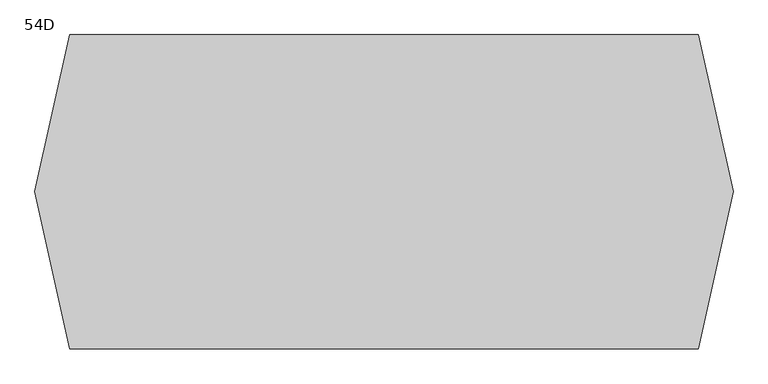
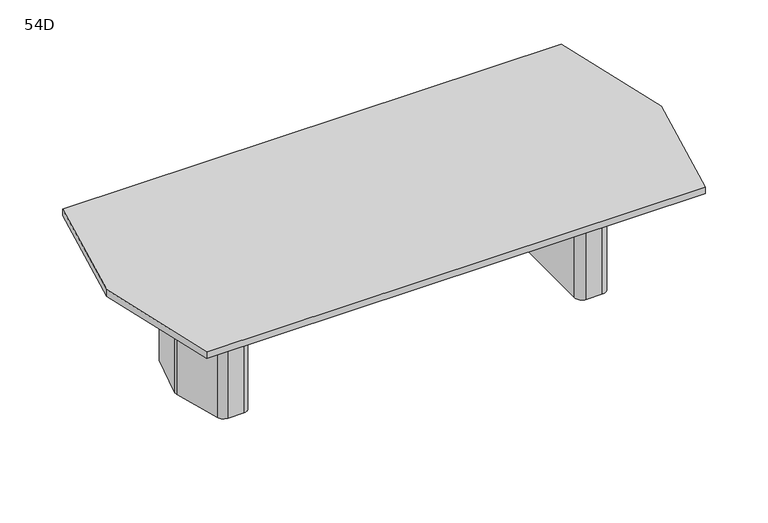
"""IFC4 building model written with IfcOpenShell, lengths in millimetres: furniture geometry, Coalesse_AM_Table_Conference_ETable2_Faceted_10ft_TwoBase : 54D."""

from ifc_helpers import new_model, si_unit, frame, origin, place, context, project, spatial, polyline, circle_curve, outline, extrude, source, transform, mapped, element, save
from ifc_brep_helpers import plane_surface, cylinder_surface, revolved_surface, advanced_brep


def furniture_54d_4db446cb(model_context):
    return source(origin(), model_context, "Body", "SolidModel", [
        advanced_brep(
        [(1065.424548, 274.2093613, 698.5), (1025.5579246, 304.8, 698.5), (936.625, 304.8, 698.5), (895.35, 263.525, 698.5), (895.35, -263.525, 698.5), (936.625, -304.8, 698.5), (1025.5579246, -304.8, 698.5), (1065.424548, -274.2093613, 698.5), (1136.0503901, -10.6333708, 698.5), (1136.0503901, 10.6333708, 698.5), (933.45, -206.375, 698.5), (933.45, 206.375, 698.5), (958.85, 231.775, 698.5), (1017.8608422, 231.775, 698.5), (1042.395338, 212.9490792, 698.5), (1081.0875, 68.54974, 698.5), (1081.0875, -68.54974, 698.5), (1042.395338, -212.9490792, 698.5), (1017.8608422, -231.775, 698.5), (958.85, -231.775, 698.5), (1065.424548, 274.2093613, 3.175), (1136.0503901, 10.6333708, 3.175), (1136.0503901, -10.6333708, 3.175), (1065.424548, -274.2093613, 3.175), (1025.5579246, -304.8, 3.175), (936.625, -304.8, 3.175), (895.35, -263.525, 3.175), (895.35, 263.525, 3.175), (936.625, 304.8, 3.175), (1025.5579246, 304.8, 3.175), (1054.6625859, 216.2361187, 3.175), (1017.8608422, 244.475, 3.175), (958.85, 244.475, 3.175), (920.75, 206.375, 3.175), (920.75, -206.375, 3.175), (958.85, -244.475, 3.175), (1017.8608422, -244.475, 3.175), (1054.6625859, -216.2361187, 3.175), (1093.7875, -70.2217466, 3.175), (1093.7875, 70.2217466, 3.175), (958.85, -231.775, 3.175), (933.45, -206.375, 3.175), (1017.8608422, -231.775, 3.175), (1042.395338, -212.9490792, 3.175), (1081.0875, -68.54974, 3.175), (1081.0875, 68.54974, 3.175), (1042.395338, 212.9490792, 3.175), (1017.8608422, 231.775, 3.175), (958.85, 231.775, 3.175), (933.45, 206.375, 3.175), (1054.6625859, 216.2361187, 0.0), (1093.7875, 70.2217466, 0.0), (1093.7875, -70.2217466, 0.0), (1054.6625859, -216.2361187, 0.0), (1017.8608422, -244.475, 0.0), (958.85, -244.475, 0.0), (920.75, -206.375, 0.0), (920.75, 206.375, 0.0), (958.85, 244.475, 0.0), (1017.8608422, 244.475, 0.0)],
        [
            (0, 1, circle_curve(frame((1025.5579246, 263.5270004, 698.5), z_axis=(0.0, 0.0, 1.0), x_axis=(-1.0, 0.0, 0.0)), 41.2729996)),
            (1, 2),
            (2, 3, circle_curve(frame((936.625, 263.525, 698.5), z_axis=(0.0, 0.0, 1.0), x_axis=(-1.0, 0.0, 0.0)), 41.275)),
            (3, 4),
            (4, 5, circle_curve(frame((936.625, -263.525, 698.5), z_axis=(0.0, 0.0, 1.0), x_axis=(-1.0, 0.0, 0.0)), 41.275)),
            (5, 6),
            (6, 7, circle_curve(frame((1025.5579246, -263.5270004, 698.5), z_axis=(0.0, 0.0, 1.0), x_axis=(-1.0, 0.0, 0.0)), 41.2729996)),
            (7, 8),
            (8, 9, circle_curve(frame((1096.3665979, 0.0, 698.5), z_axis=(0.0, 0.0, 1.0), x_axis=(-1.0, 0.0, 0.0)), 41.0837187)),
            (9, 0),
            (10, 11),
            (11, 12, circle_curve(frame((958.85, 206.375, 698.5), z_axis=(0.0, 0.0, -1.0), x_axis=(-1.0, 0.0, 0.0)), 25.4)),
            (12, 13),
            (13, 14, circle_curve(frame((1017.8608422, 206.375, 698.5), z_axis=(0.0, 0.0, -1.0), x_axis=(-1.0, 0.0, 0.0)), 25.4)),
            (14, 15),
            (15, 16),
            (16, 17),
            (17, 18, circle_curve(frame((1017.8608422, -206.375, 698.5), z_axis=(0.0, 0.0, -1.0), x_axis=(-1.0, 0.0, 0.0)), 25.4)),
            (18, 19),
            (19, 10, circle_curve(frame((958.85, -206.375, 698.5), z_axis=(0.0, 0.0, -1.0), x_axis=(-1.0, 0.0, 0.0)), 25.4)),
            (20, 21),
            (21, 22, circle_curve(frame((1096.3665979, 0.0, 3.175), z_axis=(0.0, 0.0, -1.0), x_axis=(-1.0, 0.0, 0.0)), 41.0837187)),
            (22, 23),
            (23, 24, circle_curve(frame((1025.5579246, -263.5270004, 3.175), z_axis=(0.0, 0.0, -1.0), x_axis=(-1.0, 0.0, 0.0)), 41.2729996)),
            (24, 25),
            (25, 26, circle_curve(frame((936.625, -263.525, 3.175), z_axis=(0.0, 0.0, -1.0), x_axis=(-1.0, 0.0, 0.0)), 41.275)),
            (26, 27),
            (27, 28, circle_curve(frame((936.625, 263.525, 3.175), z_axis=(0.0, 0.0, -1.0), x_axis=(-1.0, 0.0, 0.0)), 41.275)),
            (28, 29),
            (29, 20, circle_curve(frame((1025.5579246, 263.5270004, 3.175), z_axis=(0.0, 0.0, -1.0), x_axis=(-1.0, 0.0, 0.0)), 41.2729996)),
            (30, 31, circle_curve(frame((1017.8608422, 206.375, 3.175), z_axis=(0.0, 0.0, 1.0), x_axis=(-1.0, 0.0, 0.0)), 38.1)),
            (31, 32),
            (32, 33, circle_curve(frame((958.85, 206.375, 3.175), z_axis=(0.0, 0.0, 1.0), x_axis=(-1.0, 0.0, 0.0)), 38.1)),
            (33, 34),
            (34, 35, circle_curve(frame((958.85, -206.375, 3.175), z_axis=(0.0, 0.0, 1.0), x_axis=(-1.0, 0.0, 0.0)), 38.1)),
            (35, 36),
            (36, 37, circle_curve(frame((1017.8608422, -206.375, 3.175), z_axis=(0.0, 0.0, 1.0), x_axis=(-1.0, 0.0, 0.0)), 38.1)),
            (37, 38),
            (38, 39),
            (39, 30),
            (9, 21),
            (20, 0),
            (8, 22),
            (7, 23),
            (6, 24),
            (5, 25),
            (4, 26),
            (3, 27),
            (2, 28),
            (1, 29),
            (19, 40),
            (40, 41, circle_curve(frame((958.85, -206.375, 3.175), z_axis=(0.0, 0.0, -1.0), x_axis=(-1.0, 0.0, 0.0)), 25.4)),
            (41, 10),
            (18, 42),
            (42, 40),
            (17, 43),
            (43, 42, circle_curve(frame((1017.8608422, -206.375, 3.175), z_axis=(0.0, 0.0, -1.0), x_axis=(-1.0, 0.0, 0.0)), 25.4)),
            (16, 44),
            (44, 43),
            (15, 45),
            (45, 44),
            (14, 46),
            (46, 45),
            (13, 47),
            (47, 46, circle_curve(frame((1017.8608422, 206.375, 3.175), z_axis=(0.0, 0.0, -1.0), x_axis=(-1.0, 0.0, 0.0)), 25.4)),
            (12, 48),
            (48, 47),
            (11, 49),
            (49, 48, circle_curve(frame((958.85, 206.375, 3.175), z_axis=(0.0, 0.0, -1.0), x_axis=(-1.0, 0.0, 0.0)), 25.4)),
            (41, 49),
            (50, 51),
            (51, 52),
            (52, 53),
            (53, 54, circle_curve(frame((1017.8608422, -206.375, 0.0), z_axis=(0.0, 0.0, -1.0), x_axis=(-1.0, 0.0, 0.0)), 38.1)),
            (54, 55),
            (55, 56, circle_curve(frame((958.85, -206.375, 0.0), z_axis=(0.0, 0.0, -1.0), x_axis=(-1.0, 0.0, 0.0)), 38.1)),
            (56, 57),
            (57, 58, circle_curve(frame((958.85, 206.375, 0.0), z_axis=(0.0, 0.0, -1.0), x_axis=(-1.0, 0.0, 0.0)), 38.1)),
            (58, 59),
            (59, 50, circle_curve(frame((1017.8608422, 206.375, 0.0), z_axis=(0.0, 0.0, -1.0), x_axis=(-1.0, 0.0, 0.0)), 38.1)),
            (50, 30),
            (39, 51),
            (38, 52),
            (37, 53),
            (36, 54),
            (35, 55),
            (34, 56),
            (33, 57),
            (32, 58),
            (31, 59),
        ],
        [
            plane_surface(frame((1136.0374275, 10.6817473, 698.5), z_axis=(0.0, 0.0, 1.0000000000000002), x_axis=(0.25882201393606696, -0.9659250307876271, 0.0))),
            plane_surface(frame((1136.0374275, 10.6817473, 3.175), z_axis=(0.0, 0.0, -1.0000000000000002), x_axis=(-0.25882201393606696, 0.9659250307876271, 0.0))),
            plane_surface(frame((1065.424548, 274.2093613, 698.5), z_axis=(0.9659250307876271, 0.25882201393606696, 0.0), x_axis=(0.0, 0.0, -1.0))),
            cylinder_surface(frame((1096.3665979, 0.0, 3.175), z_axis=(0.0, 0.0, 1.0), x_axis=(-1.0, 0.0, 0.0)), 41.0837187),
            plane_surface(frame((1136.0503901, -10.6333708, 698.5), z_axis=(0.9659250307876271, -0.2588220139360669, 0.0), x_axis=(0.0, 0.0, -1.0))),
            cylinder_surface(frame((1025.5579246, -263.5270004, 3.175), z_axis=(0.0, 0.0, 1.0), x_axis=(-1.0, 0.0, 0.0)), 41.2729996),
            plane_surface(frame((1025.5579246, -304.8, 698.5), z_axis=(0.0, -1.0, 0.0), x_axis=(0.0, 0.0, -1.0))),
            cylinder_surface(frame((936.625, -263.525, 3.175), z_axis=(0.0, 0.0, 1.0), x_axis=(-1.0, 0.0, 0.0)), 41.275),
            plane_surface(frame((895.35, -263.525, 698.5), z_axis=(-1.0, 0.0, 0.0), x_axis=(0.0, 0.0, -1.0))),
            cylinder_surface(frame((936.625, 263.525, 3.175), z_axis=(0.0, 0.0, 1.0), x_axis=(-1.0, 0.0, 0.0)), 41.275),
            plane_surface(frame((936.625, 304.8, 698.5), z_axis=(0.0, 1.0, 0.0), x_axis=(0.0, 0.0, -1.0))),
            cylinder_surface(frame((1025.5579246, 263.5270004, 3.175), z_axis=(0.0, 0.0, 1.0), x_axis=(-1.0, 0.0, 0.0)), 41.2729996),
            revolved_surface(polyline([(933.45, -206.375, 3.175), (933.45, -206.375, 698.5)]), (958.85, -206.375, 0.0), (0.0, 0.0, -1.0)),
            plane_surface(frame((958.85, -231.775, 698.5), z_axis=(0.0, 1.0, 0.0), x_axis=(0.0, 0.0, -1.0))),
            revolved_surface(polyline([(992.4608422, -206.375, 3.175), (992.4608422, -206.375, 698.5)]), (1017.8608422, -206.375, 0.0), (0.0, 0.0, -1.0)),
            plane_surface(frame((1042.395338, -212.9490792, 698.5), z_axis=(-0.9659250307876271, 0.2588220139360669, 0.0), x_axis=(0.0, 0.0, -1.0))),
            plane_surface(frame((1081.0875, -68.54974, 698.5), z_axis=(-1.0, 0.0, 0.0), x_axis=(0.0, 0.0, -1.0))),
            plane_surface(frame((1081.0875, 68.54974, 698.5), z_axis=(-0.9659250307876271, -0.25882201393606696, 0.0), x_axis=(0.0, 0.0, -1.0))),
            revolved_surface(polyline([(992.4608422, 206.375, 3.175), (992.4608422, 206.375, 698.5)]), (1017.8608422, 206.375, 0.0), (0.0, 0.0, -1.0)),
            plane_surface(frame((1017.8608422, 231.775, 698.5), z_axis=(0.0, -1.0, 0.0), x_axis=(0.0, 0.0, -1.0))),
            revolved_surface(polyline([(933.45, 206.375, 3.175), (933.45, 206.375, 698.5)]), (958.85, 206.375, 0.0), (0.0, 0.0, -1.0)),
            plane_surface(frame((933.45, 206.375, 698.5), z_axis=(1.0, 0.0, 0.0), x_axis=(0.0, 0.0, -1.0))),
            plane_surface(frame((1093.3547479, 71.8367796, 3.175), z_axis=(0.0, 0.0, 1.0), x_axis=(0.25882201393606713, -0.965925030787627, 0.0))),
            plane_surface(frame((1093.3547479, 71.8367796, 0.0), z_axis=(0.0, 0.0, -1.0), x_axis=(-0.25882201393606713, 0.965925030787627, 0.0))),
            plane_surface(frame((1054.6625859, 216.2361187, 3.175), z_axis=(0.965925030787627, 0.25882201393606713, 0.0), x_axis=(0.0, 0.0, -1.0))),
            plane_surface(frame((1093.7875, 70.2217466, 3.175), z_axis=(1.0, 0.0, 0.0), x_axis=(0.0, 0.0, -1.0))),
            plane_surface(frame((1093.7875, -70.2217466, 3.175), z_axis=(0.9659250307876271, -0.2588220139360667, 0.0), x_axis=(0.0, 0.0, -1.0))),
            cylinder_surface(frame((1017.8608422, -206.375, 0.0), z_axis=(0.0, 0.0, 1.0), x_axis=(-1.0, 0.0, 0.0)), 38.1),
            plane_surface(frame((1017.8608422, -244.475, 3.175), z_axis=(0.0, -1.0, 0.0), x_axis=(0.0, 0.0, -1.0))),
            cylinder_surface(frame((958.85, -206.375, 0.0), z_axis=(0.0, 0.0, 1.0), x_axis=(-1.0, 0.0, 0.0)), 38.1),
            plane_surface(frame((920.75, -206.375, 3.175), z_axis=(-1.0, 0.0, 0.0), x_axis=(0.0, 0.0, -1.0))),
            cylinder_surface(frame((958.85, 206.375, 0.0), z_axis=(0.0, 0.0, 1.0), x_axis=(-1.0, 0.0, 0.0)), 38.1),
            plane_surface(frame((958.85, 244.475, 3.175), z_axis=(0.0, 1.0, 0.0), x_axis=(0.0, 0.0, -1.0))),
            cylinder_surface(frame((1017.8608422, 206.375, 0.0), z_axis=(0.0, 0.0, 1.0), x_axis=(-1.0, 0.0, 0.0)), 38.1),
        ],
        [
            (0, [[1, 2, 3, 4, 5, 6, 7, 8, 9, 10], [11, 12, 13, 14, 15, 16, 17, 18, 19, 20]]),
            (1, [[21, 22, 23, 24, 25, 26, 27, 28, 29, 30], [31, 32, 33, 34, 35, 36, 37, 38, 39, 40]]),
            (2, [[41, -21, 42, -10]]),
            (3, [[43, -22, -41, -9]]),
            (4, [[44, -23, -43, -8]]),
            (5, [[45, -24, -44, -7]]),
            (6, [[46, -25, -45, -6]]),
            (7, [[47, -26, -46, -5]]),
            (8, [[48, -27, -47, -4]]),
            (9, [[49, -28, -48, -3]]),
            (10, [[50, -29, -49, -2]]),
            (11, [[-42, -30, -50, -1]]),
            (12, [[51, 52, 53, -20]]),
            (13, [[54, 55, -51, -19]]),
            (14, [[56, 57, -54, -18]]),
            (15, [[58, 59, -56, -17]]),
            (16, [[60, 61, -58, -16]]),
            (17, [[62, 63, -60, -15]]),
            (18, [[64, 65, -62, -14]]),
            (19, [[66, 67, -64, -13]]),
            (20, [[68, 69, -66, -12]]),
            (21, [[-53, 70, -68, -11]]),
            (22, [[-55, -57, -59, -61, -63, -65, -67, -69, -70, -52]]),
            (23, [[71, 72, 73, 74, 75, 76, 77, 78, 79, 80]]),
            (24, [[81, -40, 82, -71]]),
            (25, [[-82, -39, 83, -72]]),
            (26, [[-83, -38, 84, -73]]),
            (27, [[-84, -37, 85, -74]]),
            (28, [[-85, -36, 86, -75]]),
            (29, [[-86, -35, 87, -76]]),
            (30, [[-87, -34, 88, -77]]),
            (31, [[-88, -33, 89, -78]]),
            (32, [[-89, -32, 90, -79]]),
            (33, [[-90, -31, -81, -80]]),
        ],
    ),
        advanced_brep(
        [(-1076.537048, 274.2093613, 698.5), (-1147.1628901, 10.6333708, 698.5), (-1147.1628901, -10.6333708, 698.5), (-1076.537048, -274.2093613, 698.5), (-1036.6704246, -304.8, 698.5), (-947.7375, -304.8, 698.5), (-906.4625, -263.525, 698.5), (-906.4625, 263.525, 698.5), (-947.7375, 304.8, 698.5), (-1036.6704246, 304.8, 698.5), (-944.5625, -206.375, 698.5), (-969.9625, -231.775, 698.5), (-1028.9733422, -231.775, 698.5), (-1053.507838, -212.9490792, 698.5), (-1092.2, -68.54974, 698.5), (-1092.2, 68.54974, 698.5), (-1053.507838, 212.9490792, 698.5), (-1028.9733422, 231.775, 698.5), (-969.9625, 231.775, 698.5), (-944.5625, 206.375, 698.5), (-1076.537048, 274.2093613, 3.175), (-1036.6704246, 304.8, 3.175), (-947.7375, 304.8, 3.175), (-906.4625, 263.525, 3.175), (-906.4625, -263.525, 3.175), (-947.7375, -304.8, 3.175), (-1036.6704246, -304.8, 3.175), (-1076.537048, -274.2093613, 3.175), (-1147.1628901, -10.6333708, 3.175), (-1147.1628901, 10.6333708, 3.175), (-1065.7750859, 216.2361187, 3.175), (-1104.9, 70.2217466, 3.175), (-1104.9, -70.2217466, 3.175), (-1065.7750859, -216.2361187, 3.175), (-1028.9733422, -244.475, 3.175), (-969.9625, -244.475, 3.175), (-931.8625, -206.375, 3.175), (-931.8625, 206.375, 3.175), (-969.9625, 244.475, 3.175), (-1028.9733422, 244.475, 3.175), (-944.5625, -206.375, 3.175), (-969.9625, -231.775, 3.175), (-1028.9733422, -231.775, 3.175), (-1053.507838, -212.9490792, 3.175), (-1092.2, -68.54974, 3.175), (-1092.2, 68.54974, 3.175), (-1053.507838, 212.9490792, 3.175), (-1028.9733422, 231.775, 3.175), (-969.9625, 231.775, 3.175), (-944.5625, 206.375, 3.175), (-1065.7750859, 216.2361187, 0.0), (-1028.9733422, 244.475, 0.0), (-969.9625, 244.475, 0.0), (-931.8625, 206.375, 0.0), (-931.8625, -206.375, 0.0), (-969.9625, -244.475, 0.0), (-1028.9733422, -244.475, 0.0), (-1065.7750859, -216.2361187, 0.0), (-1104.9, -70.2217466, 0.0), (-1104.9, 70.2217466, 0.0)],
        [
            (0, 1),
            (1, 2, circle_curve(frame((-1107.4790979, 0.0, 698.5), z_axis=(0.0, 0.0, 1.0), x_axis=(1.0, 0.0, 0.0)), 41.0837187)),
            (2, 3),
            (3, 4, circle_curve(frame((-1036.6704246, -263.5270004, 698.5), z_axis=(0.0, 0.0, 1.0), x_axis=(1.0, 0.0, 0.0)), 41.2729996)),
            (4, 5),
            (5, 6, circle_curve(frame((-947.7375, -263.525, 698.5), z_axis=(0.0, 0.0, 1.0), x_axis=(1.0, 0.0, 0.0)), 41.275)),
            (6, 7),
            (7, 8, circle_curve(frame((-947.7375, 263.525, 698.5), z_axis=(0.0, 0.0, 1.0), x_axis=(1.0, 0.0, 0.0)), 41.275)),
            (8, 9),
            (9, 0, circle_curve(frame((-1036.6704246, 263.5270004, 698.5), z_axis=(0.0, 0.0, 1.0), x_axis=(1.0, 0.0, 0.0)), 41.2729996)),
            (10, 11, circle_curve(frame((-969.9625, -206.375, 698.5), z_axis=(0.0, 0.0, -1.0), x_axis=(1.0, 0.0, 0.0)), 25.4)),
            (11, 12),
            (12, 13, circle_curve(frame((-1028.9733422, -206.375, 698.5), z_axis=(0.0, 0.0, -1.0), x_axis=(1.0, 0.0, 0.0)), 25.4)),
            (13, 14),
            (14, 15),
            (15, 16),
            (16, 17, circle_curve(frame((-1028.9733422, 206.375, 698.5), z_axis=(0.0, 0.0, -1.0), x_axis=(1.0, 0.0, 0.0)), 25.4)),
            (17, 18),
            (18, 19, circle_curve(frame((-969.9625, 206.375, 698.5), z_axis=(0.0, 0.0, -1.0), x_axis=(1.0, 0.0, 0.0)), 25.4)),
            (19, 10),
            (20, 21, circle_curve(frame((-1036.6704246, 263.5270004, 3.175), z_axis=(0.0, 0.0, -1.0), x_axis=(1.0, 0.0, 0.0)), 41.2729996)),
            (21, 22),
            (22, 23, circle_curve(frame((-947.7375, 263.525, 3.175), z_axis=(0.0, 0.0, -1.0), x_axis=(1.0, 0.0, 0.0)), 41.275)),
            (23, 24),
            (24, 25, circle_curve(frame((-947.7375, -263.525, 3.175), z_axis=(0.0, 0.0, -1.0), x_axis=(1.0, 0.0, 0.0)), 41.275)),
            (25, 26),
            (26, 27, circle_curve(frame((-1036.6704246, -263.5270004, 3.175), z_axis=(0.0, 0.0, -1.0), x_axis=(1.0, 0.0, 0.0)), 41.2729996)),
            (27, 28),
            (28, 29, circle_curve(frame((-1107.4790979, 0.0, 3.175), z_axis=(0.0, 0.0, -1.0), x_axis=(1.0, 0.0, 0.0)), 41.0837187)),
            (29, 20),
            (30, 31),
            (31, 32),
            (32, 33),
            (33, 34, circle_curve(frame((-1028.9733422, -206.375, 3.175), z_axis=(0.0, 0.0, 1.0), x_axis=(1.0, 0.0, 0.0)), 38.1)),
            (34, 35),
            (35, 36, circle_curve(frame((-969.9625, -206.375, 3.175), z_axis=(0.0, 0.0, 1.0), x_axis=(1.0, 0.0, 0.0)), 38.1)),
            (36, 37),
            (37, 38, circle_curve(frame((-969.9625, 206.375, 3.175), z_axis=(0.0, 0.0, 1.0), x_axis=(1.0, 0.0, 0.0)), 38.1)),
            (38, 39),
            (39, 30, circle_curve(frame((-1028.9733422, 206.375, 3.175), z_axis=(0.0, 0.0, 1.0), x_axis=(1.0, 0.0, 0.0)), 38.1)),
            (0, 20),
            (29, 1),
            (28, 2),
            (27, 3),
            (26, 4),
            (25, 5),
            (24, 6),
            (23, 7),
            (22, 8),
            (21, 9),
            (10, 40),
            (40, 41, circle_curve(frame((-969.9625, -206.375, 3.175), z_axis=(0.0, 0.0, -1.0), x_axis=(1.0, 0.0, 0.0)), 25.4)),
            (41, 11),
            (41, 42),
            (42, 12),
            (42, 43, circle_curve(frame((-1028.9733422, -206.375, 3.175), z_axis=(0.0, 0.0, -1.0), x_axis=(1.0, 0.0, 0.0)), 25.4)),
            (43, 13),
            (43, 44),
            (44, 14),
            (44, 45),
            (45, 15),
            (45, 46),
            (46, 16),
            (46, 47, circle_curve(frame((-1028.9733422, 206.375, 3.175), z_axis=(0.0, 0.0, -1.0), x_axis=(1.0, 0.0, 0.0)), 25.4)),
            (47, 17),
            (47, 48),
            (48, 18),
            (48, 49, circle_curve(frame((-969.9625, 206.375, 3.175), z_axis=(0.0, 0.0, -1.0), x_axis=(1.0, 0.0, 0.0)), 25.4)),
            (49, 19),
            (49, 40),
            (50, 51, circle_curve(frame((-1028.9733422, 206.375, 0.0), z_axis=(0.0, 0.0, -1.0), x_axis=(1.0, 0.0, 0.0)), 38.1)),
            (51, 52),
            (52, 53, circle_curve(frame((-969.9625, 206.375, 0.0), z_axis=(0.0, 0.0, -1.0), x_axis=(1.0, 0.0, 0.0)), 38.1)),
            (53, 54),
            (54, 55, circle_curve(frame((-969.9625, -206.375, 0.0), z_axis=(0.0, 0.0, -1.0), x_axis=(1.0, 0.0, 0.0)), 38.1)),
            (55, 56),
            (56, 57, circle_curve(frame((-1028.9733422, -206.375, 0.0), z_axis=(0.0, 0.0, -1.0), x_axis=(1.0, 0.0, 0.0)), 38.1)),
            (57, 58),
            (58, 59),
            (59, 50),
            (59, 31),
            (30, 50),
            (58, 32),
            (57, 33),
            (56, 34),
            (55, 35),
            (54, 36),
            (53, 37),
            (52, 38),
            (51, 39),
        ],
        [
            plane_surface(frame((-1147.1499275, 10.6817473, 698.5), z_axis=(0.0, 0.0, 1.0000000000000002), x_axis=(-0.25882201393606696, -0.9659250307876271, 0.0))),
            plane_surface(frame((-1147.1499275, 10.6817473, 3.175), z_axis=(0.0, 0.0, -1.0000000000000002), x_axis=(0.25882201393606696, 0.9659250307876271, 0.0))),
            plane_surface(frame((-1076.537048, 274.2093613, 698.5), z_axis=(-0.9659250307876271, 0.25882201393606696, 0.0), x_axis=(0.0, 0.0, -1.0))),
            cylinder_surface(frame((-1107.4790979, 0.0, 3.175), z_axis=(0.0, 0.0, 1.0), x_axis=(1.0, 0.0, 0.0)), 41.0837187),
            plane_surface(frame((-1147.1628901, -10.6333708, 698.5), z_axis=(-0.9659250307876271, -0.2588220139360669, 0.0), x_axis=(0.0, 0.0, -1.0))),
            cylinder_surface(frame((-1036.6704246, -263.5270004, 3.175), z_axis=(0.0, 0.0, 1.0), x_axis=(1.0, 0.0, 0.0)), 41.2729996),
            plane_surface(frame((-1036.6704246, -304.8, 698.5), z_axis=(0.0, -1.0, 0.0), x_axis=(0.0, 0.0, -1.0))),
            cylinder_surface(frame((-947.7375, -263.525, 3.175), z_axis=(0.0, 0.0, 1.0), x_axis=(1.0, 0.0, 0.0)), 41.275),
            plane_surface(frame((-906.4625, -263.525, 698.5), z_axis=(1.0, 0.0, 0.0), x_axis=(0.0, 0.0, -1.0))),
            cylinder_surface(frame((-947.7375, 263.525, 3.175), z_axis=(0.0, 0.0, 1.0), x_axis=(1.0, 0.0, 0.0)), 41.275),
            plane_surface(frame((-947.7375, 304.8, 698.5), z_axis=(0.0, 1.0, 0.0), x_axis=(0.0, 0.0, -1.0))),
            cylinder_surface(frame((-1036.6704246, 263.5270004, 3.175), z_axis=(0.0, 0.0, 1.0), x_axis=(1.0, 0.0, 0.0)), 41.2729996),
            revolved_surface(polyline([(-944.5625, -206.375, 3.175), (-944.5625, -206.375, 698.5)]), (-969.9625, -206.375, 0.0), (0.0, 0.0, -1.0)),
            plane_surface(frame((-969.9625, -231.775, 698.5), z_axis=(0.0, 1.0, 0.0), x_axis=(0.0, 0.0, -1.0))),
            revolved_surface(polyline([(-1003.5733422, -206.375, 3.175), (-1003.5733422, -206.375, 698.5)]), (-1028.9733422, -206.375, 0.0), (0.0, 0.0, -1.0)),
            plane_surface(frame((-1053.507838, -212.9490792, 698.5), z_axis=(0.9659250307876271, 0.2588220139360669, 0.0), x_axis=(0.0, 0.0, -1.0))),
            plane_surface(frame((-1092.2, -68.54974, 698.5), z_axis=(1.0, 0.0, 0.0), x_axis=(0.0, 0.0, -1.0))),
            plane_surface(frame((-1092.2, 68.54974, 698.5), z_axis=(0.9659250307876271, -0.25882201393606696, 0.0), x_axis=(0.0, 0.0, -1.0))),
            revolved_surface(polyline([(-1003.5733422, 206.375, 3.175), (-1003.5733422, 206.375, 698.5)]), (-1028.9733422, 206.375, 0.0), (0.0, 0.0, -1.0)),
            plane_surface(frame((-1028.9733422, 231.775, 698.5), z_axis=(0.0, -1.0, 0.0), x_axis=(0.0, 0.0, -1.0))),
            revolved_surface(polyline([(-944.5625, 206.375, 3.175), (-944.5625, 206.375, 698.5)]), (-969.9625, 206.375, 0.0), (0.0, 0.0, -1.0)),
            plane_surface(frame((-944.5625, 206.375, 698.5), z_axis=(-1.0, 0.0, 0.0), x_axis=(0.0, 0.0, -1.0))),
            plane_surface(frame((-1104.4672479, 71.8367796, 3.175), z_axis=(0.0, 0.0, 1.0), x_axis=(-0.25882201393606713, -0.965925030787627, 0.0))),
            plane_surface(frame((-1104.4672479, 71.8367796, 0.0), z_axis=(0.0, 0.0, -1.0), x_axis=(0.25882201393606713, 0.965925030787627, 0.0))),
            plane_surface(frame((-1065.7750859, 216.2361187, 3.175), z_axis=(-0.965925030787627, 0.25882201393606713, 0.0), x_axis=(0.0, 0.0, -1.0))),
            plane_surface(frame((-1104.9, 70.2217466, 3.175), z_axis=(-1.0, 0.0, 0.0), x_axis=(0.0, 0.0, -1.0))),
            plane_surface(frame((-1104.9, -70.2217466, 3.175), z_axis=(-0.9659250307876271, -0.2588220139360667, 0.0), x_axis=(0.0, 0.0, -1.0))),
            cylinder_surface(frame((-1028.9733422, -206.375, 0.0), z_axis=(0.0, 0.0, 1.0), x_axis=(1.0, 0.0, 0.0)), 38.1),
            plane_surface(frame((-1028.9733422, -244.475, 3.175), z_axis=(0.0, -1.0, 0.0), x_axis=(0.0, 0.0, -1.0))),
            cylinder_surface(frame((-969.9625, -206.375, 0.0), z_axis=(0.0, 0.0, 1.0), x_axis=(1.0, 0.0, 0.0)), 38.1),
            plane_surface(frame((-931.8625, -206.375, 3.175), z_axis=(1.0, 0.0, 0.0), x_axis=(0.0, 0.0, -1.0))),
            cylinder_surface(frame((-969.9625, 206.375, 0.0), z_axis=(0.0, 0.0, 1.0), x_axis=(1.0, 0.0, 0.0)), 38.1),
            plane_surface(frame((-969.9625, 244.475, 3.175), z_axis=(0.0, 1.0, 0.0), x_axis=(0.0, 0.0, -1.0))),
            cylinder_surface(frame((-1028.9733422, 206.375, 0.0), z_axis=(0.0, 0.0, 1.0), x_axis=(1.0, 0.0, 0.0)), 38.1),
        ],
        [
            (0, [[1, 2, 3, 4, 5, 6, 7, 8, 9, 10], [11, 12, 13, 14, 15, 16, 17, 18, 19, 20]]),
            (1, [[21, 22, 23, 24, 25, 26, 27, 28, 29, 30], [31, 32, 33, 34, 35, 36, 37, 38, 39, 40]]),
            (2, [[-1, 41, -30, 42]]),
            (3, [[-2, -42, -29, 43]]),
            (4, [[-3, -43, -28, 44]]),
            (5, [[-4, -44, -27, 45]]),
            (6, [[-5, -45, -26, 46]]),
            (7, [[-6, -46, -25, 47]]),
            (8, [[-7, -47, -24, 48]]),
            (9, [[-8, -48, -23, 49]]),
            (10, [[-9, -49, -22, 50]]),
            (11, [[-10, -50, -21, -41]]),
            (12, [[-11, 51, 52, 53]]),
            (13, [[-12, -53, 54, 55]]),
            (14, [[-13, -55, 56, 57]]),
            (15, [[-14, -57, 58, 59]]),
            (16, [[-15, -59, 60, 61]]),
            (17, [[-16, -61, 62, 63]]),
            (18, [[-17, -63, 64, 65]]),
            (19, [[-18, -65, 66, 67]]),
            (20, [[-19, -67, 68, 69]]),
            (21, [[-20, -69, 70, -51]]),
            (22, [[-52, -70, -68, -66, -64, -62, -60, -58, -56, -54]]),
            (23, [[71, 72, 73, 74, 75, 76, 77, 78, 79, 80]]),
            (24, [[-80, 81, -31, 82]]),
            (25, [[-79, 83, -32, -81]]),
            (26, [[-78, 84, -33, -83]]),
            (27, [[-77, 85, -34, -84]]),
            (28, [[-76, 86, -35, -85]]),
            (29, [[-75, 87, -36, -86]]),
            (30, [[-74, 88, -37, -87]]),
            (31, [[-73, 89, -38, -88]]),
            (32, [[-72, 90, -39, -89]]),
            (33, [[-71, -82, -40, -90]]),
        ],
    ),
        extrude(outline(polyline([(-1524.0, 0.0), (-1371.9609518, 685.8), (1371.9609518, 685.8), (1524.0, 0.0), (1371.9609518, -685.8), (-1371.9609518, -685.8), (-1524.0, 0.0)])), frame((0.0, 0.0, 698.5), z_axis=(0.0, 0.0, 1.0), x_axis=(1.0, 0.0, 0.0)), (0.0, 0.0, 1.0), 38.1),
        extrude(outline(polyline([(96.8375, 698.5), (103.1875, 698.5), (103.1875, 476.25), (-103.1875, 476.25), (-103.1875, 698.5), (-96.8375, 698.5), (-96.8375, 482.6), (96.8375, 482.6), (96.8375, 698.5)])), frame((-906.4625, 0.0, 0.0), z_axis=(1.0, 0.0, 0.0), x_axis=(0.0, 1.0, 0.0)), (0.0, 0.0, 1.0), 1801.8125),
    ])


if __name__ == "__main__":
    model = new_model("IFC4")
    model_context = context("Model", 3, world=origin())
    ifc_project = project(units=[si_unit("LENGTHUNIT", "METRE", prefix="MILLI")], contexts=[model_context])
    site = spatial("IfcSite", under=ifc_project)
    building = spatial("IfcBuilding", under=site)
    placement = place(None, origin())
    furniture_54d_shape = furniture_54d_4db446cb(model_context)
    element("IfcFurniture", 1, ObjectType="Coalesse_AM_Table_Conference_ETable2_Faceted_10ft_TwoBase : 54D", at=placement, inside=building, context=model_context, shape_type="MappedRepresentation", body=[
        mapped(furniture_54d_shape, transform((0.0, 0.0, 0.0), x_axis=(1.0, 0.0, 0.0), y_axis=(0.0, 1.0, 0.0), z_axis=(0.0, 0.0, 1.0))),
    ])
    save(model, "model.ifc")
